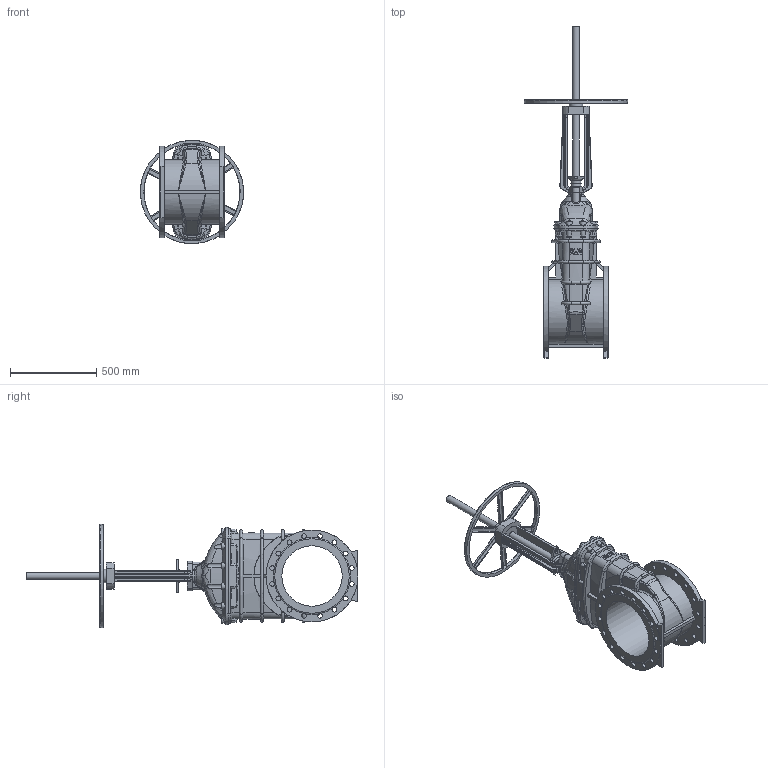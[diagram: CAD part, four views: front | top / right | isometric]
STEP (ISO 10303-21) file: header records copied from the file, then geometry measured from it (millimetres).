
FILE_DESCRIPTION (( 'STEP AP203' ), '1' );
FILE_NAME ('O_21_34_DN350_41XXXXX open_AA0.step', '2020-02-12T09:48:26', ( 'Windows User' ), ( 'AVK' ), 'SwSTEP 2.0', 'SolidWorks 2012', '' );
FILE_SCHEMA (( 'CONFIG_CONTROL_DESIGN' ));
Length unit declared in the file: millimetre
Products named in the file (1): O_21_34_DN350_41XXXXX open_AA0
Bounding box: 598.51 x 1924.5 x 598.51 mm (x, y, z)
Volume: 62876530 mm3; surface area: 3044389.3 mm2
Topology: 1 solids, 1 shells, 828 faces, 2332 edges, 1476 vertices
Faces by surface type: plane 234, cylinder 196, bspline 182, cone 160, torus 52, sphere 4
Full cylindrical faces by diameter (mm): 28 x32, 40 x2, 55.9 x1, 60 x1, 64 x1, 77 x1, 105 x1, 350 x1, 533 x2
Entity records: 38575 total; most frequent: CARTESIAN_POINT 20293, ORIENTED_EDGE 4362, DIRECTION 3056, EDGE_CURVE 2181, VERTEX_POINT 1399, AXIS2_PLACEMENT_3D 1236, EDGE_LOOP 934, FACE_OUTER_BOUND 862
